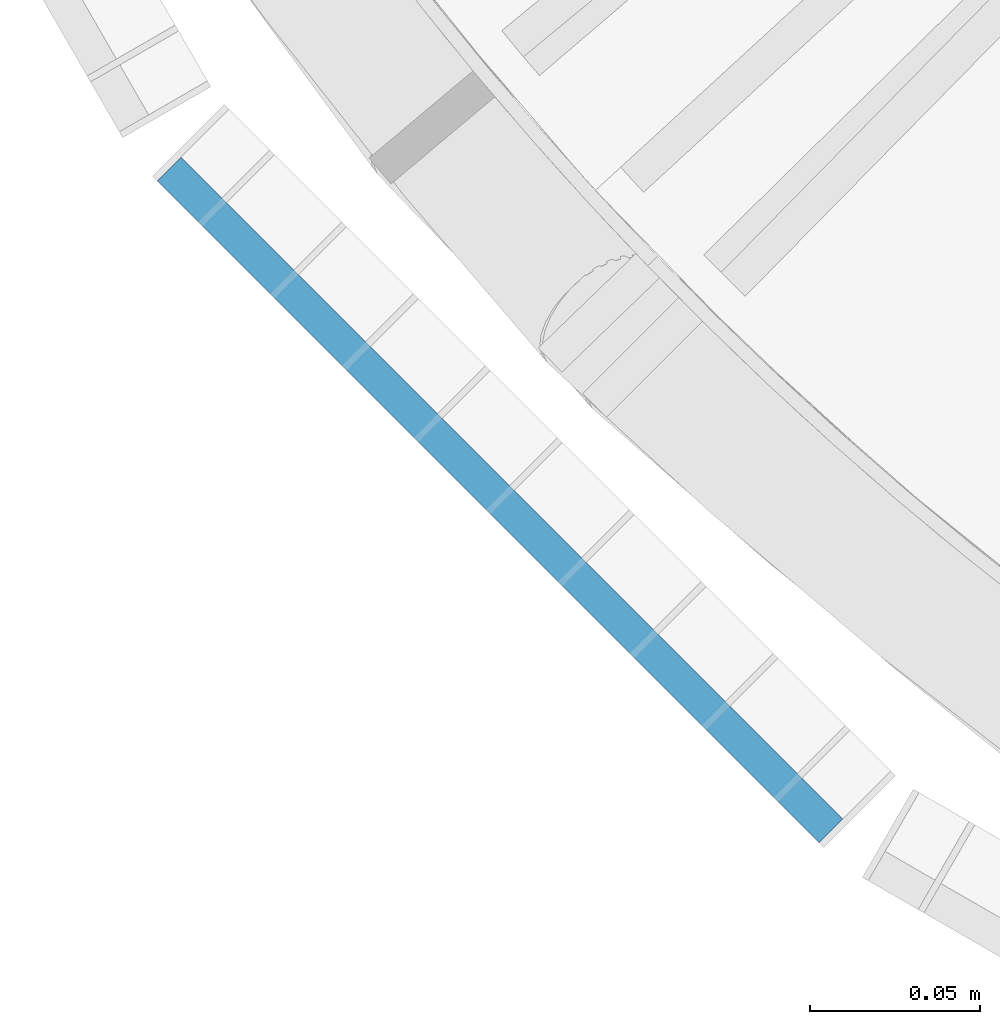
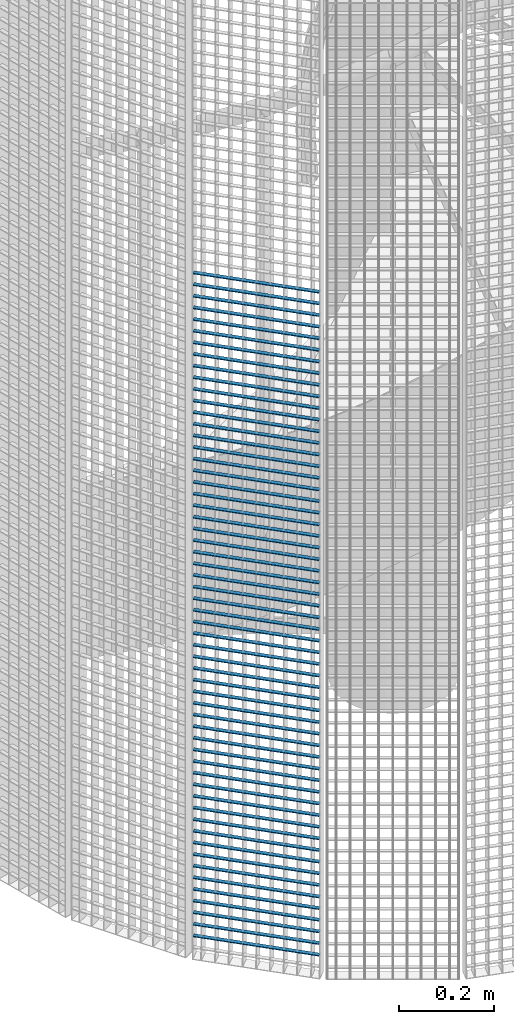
# One storey, part 130 of 1183: 58 beams, 1 element without a shape of its own.
"""IFC2X3 building model written with IfcOpenShell, lengths in millimetres."""

from ifc_helpers import new_model, si_unit, frame, origin_with_axes, origin_2d_with_axis, place, context, subcontext, project, spatial, rectangle, extrude, material, type_object, element, aggregate, save


model = new_model("IFC2X3")

# Units and contexts
model_context = context("Model", 3, precision=1e-05, world=origin_with_axes())
body_context = subcontext(model_context, "Body", "Model", "MODEL_VIEW")
ifc_project = project(units=[si_unit("LENGTHUNIT", "METRE", prefix="MILLI"), si_unit("AREAUNIT", "SQUARE_METRE"), si_unit("VOLUMEUNIT", "CUBIC_METRE"), si_unit("MASSUNIT", "GRAM", prefix="KILO"), si_unit("TIMEUNIT", "SECOND"), si_unit("PLANEANGLEUNIT", "RADIAN"), si_unit("SOLIDANGLEUNIT", "STERADIAN"), si_unit("THERMODYNAMICTEMPERATUREUNIT", "DEGREE_CELSIUS"), si_unit("LUMINOUSINTENSITYUNIT", "LUMEN")], contexts=[model_context])

# Site, building, storey
site_placement = place(None, origin_with_axes())
site = spatial("IfcSite", under=ifc_project, at=site_placement, Name="Undefined", CompositionType="ELEMENT")
building_placement = place(site_placement, origin_with_axes())
building = spatial("IfcBuilding", under=site, at=building_placement, Name="Undefined", CompositionType="ELEMENT")
storey_placement = place(building_placement, origin_with_axes())
storey = spatial("IfcBuildingStorey", under=building, at=storey_placement, Name="Undefined", CompositionType="ELEMENT", Elevation=0.0)

# Assembly, beams
assembly_placement = place(storey_placement, origin_with_axes())
assembly = element("IfcElementAssembly", 1, at=assembly_placement, inside=storey, Name="BORDURE", AssemblyPlace="NOTDEFINED", PredefinedType="NOTDEFINED")
ifc_material = material(Name="STEEL/S235JR")
beam_type = type_object("IfcBeamType", Name="PL2*10", PredefinedType="NOTDEFINED")
beam_1_placement = place(assembly_placement, frame((-884.927168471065, -689.771348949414, 1770.0), z_axis=(-0.70710678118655, -0.707106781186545, 0.0), x_axis=(0.707106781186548, -0.707106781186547, 0.0)))
beam_1 = element("IfcBeam", 2, at=beam_1_placement, type_object=beam_type, material=ifc_material, Name="ENTRETOISE", context=body_context, shape_type="SweptSolid", body=[
    extrude(rectangle(XDim=2.0, YDim=10.0, at=origin_2d_with_axis()), frame((275.999999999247, 9.09494701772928e-13, 1.53210777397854e-14), z_axis=(-1.0, 0.0, 0.0), x_axis=(0.0, -1.0, 0.0)), (0.0, 0.0, 1.0), 276.0),
])
beam_2_placement = place(assembly_placement, frame((-884.927168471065, -689.771348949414, 1740.0), z_axis=(-0.70710678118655, -0.707106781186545, 0.0), x_axis=(0.707106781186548, -0.707106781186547, 0.0)))
beam_2 = element("IfcBeam", 3, at=beam_2_placement, type_object=beam_type, material=ifc_material, Name="ENTRETOISE", context=body_context, shape_type="SweptSolid", body=[
    extrude(rectangle(XDim=2.0, YDim=10.0, at=origin_2d_with_axis()), frame((275.999999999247, 9.09494701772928e-13, 1.53210777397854e-14), z_axis=(-1.0, 0.0, 0.0), x_axis=(0.0, -1.0, 0.0)), (0.0, 0.0, 1.0), 276.0),
])
beam_3_placement = place(assembly_placement, frame((-884.927168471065, -689.771348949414, 1710.0), z_axis=(-0.70710678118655, -0.707106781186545, 0.0), x_axis=(0.707106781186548, -0.707106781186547, 0.0)))
beam_3 = element("IfcBeam", 4, at=beam_3_placement, type_object=beam_type, material=ifc_material, Name="ENTRETOISE", context=body_context, shape_type="SweptSolid", body=[
    extrude(rectangle(XDim=2.0, YDim=10.0, at=origin_2d_with_axis()), frame((275.999999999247, 9.09494701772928e-13, 1.53210777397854e-14), z_axis=(-1.0, 0.0, 0.0), x_axis=(0.0, -1.0, 0.0)), (0.0, 0.0, 1.0), 276.0),
])
beam_4_placement = place(assembly_placement, frame((-884.927168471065, -689.771348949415, 1680.0), z_axis=(-0.70710678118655, -0.707106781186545, 0.0), x_axis=(0.707106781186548, -0.707106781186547, 0.0)))
beam_4 = element("IfcBeam", 5, at=beam_4_placement, type_object=beam_type, material=ifc_material, Name="ENTRETOISE", context=body_context, shape_type="SweptSolid", body=[
    extrude(rectangle(XDim=2.0, YDim=10.0, at=origin_2d_with_axis()), frame((275.999999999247, 9.09494701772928e-13, 1.53210777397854e-14), z_axis=(-1.0, 0.0, 0.0), x_axis=(0.0, -1.0, 0.0)), (0.0, 0.0, 1.0), 276.0),
])
beam_5_placement = place(assembly_placement, frame((-884.927168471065, -689.771348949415, 1650.0), z_axis=(-0.70710678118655, -0.707106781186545, 0.0), x_axis=(0.707106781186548, -0.707106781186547, 0.0)))
beam_5 = element("IfcBeam", 6, at=beam_5_placement, type_object=beam_type, material=ifc_material, Name="ENTRETOISE", context=body_context, shape_type="SweptSolid", body=[
    extrude(rectangle(XDim=2.0, YDim=10.0, at=origin_2d_with_axis()), frame((275.999999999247, 9.09494701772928e-13, 1.53210777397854e-14), z_axis=(-1.0, 0.0, 0.0), x_axis=(0.0, -1.0, 0.0)), (0.0, 0.0, 1.0), 276.0),
])
beam_6_placement = place(assembly_placement, frame((-884.927168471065, -689.771348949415, 1620.0), z_axis=(-0.70710678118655, -0.707106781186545, 0.0), x_axis=(0.707106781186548, -0.707106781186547, 0.0)))
beam_6 = element("IfcBeam", 7, at=beam_6_placement, type_object=beam_type, material=ifc_material, Name="ENTRETOISE", context=body_context, shape_type="SweptSolid", body=[
    extrude(rectangle(XDim=2.0, YDim=10.0, at=origin_2d_with_axis()), frame((275.999999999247, 9.09494701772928e-13, 1.53210777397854e-14), z_axis=(-1.0, 0.0, 0.0), x_axis=(0.0, -1.0, 0.0)), (0.0, 0.0, 1.0), 276.0),
])
beam_7_placement = place(assembly_placement, frame((-884.927168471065, -689.771348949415, 1590.0), z_axis=(-0.70710678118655, -0.707106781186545, 0.0), x_axis=(0.707106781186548, -0.707106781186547, 0.0)))
beam_7 = element("IfcBeam", 8, at=beam_7_placement, type_object=beam_type, material=ifc_material, Name="ENTRETOISE", context=body_context, shape_type="SweptSolid", body=[
    extrude(rectangle(XDim=2.0, YDim=10.0, at=origin_2d_with_axis()), frame((275.999999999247, 9.09494701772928e-13, 1.53210777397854e-14), z_axis=(-1.0, 0.0, 0.0), x_axis=(0.0, -1.0, 0.0)), (0.0, 0.0, 1.0), 276.0),
])
beam_8_placement = place(assembly_placement, frame((-884.927168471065, -689.771348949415, 1560.0), z_axis=(-0.70710678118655, -0.707106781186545, 0.0), x_axis=(0.707106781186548, -0.707106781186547, 0.0)))
beam_8 = element("IfcBeam", 9, at=beam_8_placement, type_object=beam_type, material=ifc_material, Name="ENTRETOISE", context=body_context, shape_type="SweptSolid", body=[
    extrude(rectangle(XDim=2.0, YDim=10.0, at=origin_2d_with_axis()), frame((275.999999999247, 9.09494701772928e-13, 1.53210777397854e-14), z_axis=(-1.0, 0.0, 0.0), x_axis=(0.0, -1.0, 0.0)), (0.0, 0.0, 1.0), 276.0),
])
beam_9_placement = place(assembly_placement, frame((-884.927168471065, -689.771348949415, 1530.0), z_axis=(-0.70710678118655, -0.707106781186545, 0.0), x_axis=(0.707106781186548, -0.707106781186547, 0.0)))
beam_9 = element("IfcBeam", 10, at=beam_9_placement, type_object=beam_type, material=ifc_material, Name="ENTRETOISE", context=body_context, shape_type="SweptSolid", body=[
    extrude(rectangle(XDim=2.0, YDim=10.0, at=origin_2d_with_axis()), frame((275.999999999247, 9.09494701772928e-13, 1.53210777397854e-14), z_axis=(-1.0, 0.0, 0.0), x_axis=(0.0, -1.0, 0.0)), (0.0, 0.0, 1.0), 276.0),
])
beam_10_placement = place(assembly_placement, frame((-884.927168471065, -689.771348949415, 1500.0), z_axis=(-0.70710678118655, -0.707106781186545, 0.0), x_axis=(0.707106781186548, -0.707106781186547, 0.0)))
beam_10 = element("IfcBeam", 11, at=beam_10_placement, type_object=beam_type, material=ifc_material, Name="ENTRETOISE", context=body_context, shape_type="SweptSolid", body=[
    extrude(rectangle(XDim=2.0, YDim=10.0, at=origin_2d_with_axis()), frame((275.999999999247, 9.09494701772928e-13, 1.53210777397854e-14), z_axis=(-1.0, 0.0, 0.0), x_axis=(0.0, -1.0, 0.0)), (0.0, 0.0, 1.0), 276.0),
])
beam_11_placement = place(assembly_placement, frame((-884.927168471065, -689.771348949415, 1470.0), z_axis=(-0.70710678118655, -0.707106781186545, 0.0), x_axis=(0.707106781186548, -0.707106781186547, 0.0)))
beam_11 = element("IfcBeam", 12, at=beam_11_placement, type_object=beam_type, material=ifc_material, Name="ENTRETOISE", context=body_context, shape_type="SweptSolid", body=[
    extrude(rectangle(XDim=2.0, YDim=10.0, at=origin_2d_with_axis()), frame((275.999999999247, 9.09494701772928e-13, 1.53210777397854e-14), z_axis=(-1.0, 0.0, 0.0), x_axis=(0.0, -1.0, 0.0)), (0.0, 0.0, 1.0), 276.0),
])
beam_12_placement = place(assembly_placement, frame((-884.927168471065, -689.771348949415, 1440.0), z_axis=(-0.70710678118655, -0.707106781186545, 0.0), x_axis=(0.707106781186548, -0.707106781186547, 0.0)))
beam_12 = element("IfcBeam", 13, at=beam_12_placement, type_object=beam_type, material=ifc_material, Name="ENTRETOISE", context=body_context, shape_type="SweptSolid", body=[
    extrude(rectangle(XDim=2.0, YDim=10.0, at=origin_2d_with_axis()), frame((275.999999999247, 9.09494701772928e-13, 1.53210777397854e-14), z_axis=(-1.0, 0.0, 0.0), x_axis=(0.0, -1.0, 0.0)), (0.0, 0.0, 1.0), 276.0),
])
beam_13_placement = place(assembly_placement, frame((-884.927168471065, -689.771348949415, 1410.0), z_axis=(-0.70710678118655, -0.707106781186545, 0.0), x_axis=(0.707106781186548, -0.707106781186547, 0.0)))
beam_13 = element("IfcBeam", 14, at=beam_13_placement, type_object=beam_type, material=ifc_material, Name="ENTRETOISE", context=body_context, shape_type="SweptSolid", body=[
    extrude(rectangle(XDim=2.0, YDim=10.0, at=origin_2d_with_axis()), frame((275.999999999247, 9.09494701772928e-13, 1.53210777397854e-14), z_axis=(-1.0, 0.0, 0.0), x_axis=(0.0, -1.0, 0.0)), (0.0, 0.0, 1.0), 276.0),
])
beam_14_placement = place(assembly_placement, frame((-884.927168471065, -689.771348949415, 1380.0), z_axis=(-0.70710678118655, -0.707106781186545, 0.0), x_axis=(0.707106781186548, -0.707106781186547, 0.0)))
beam_14 = element("IfcBeam", 15, at=beam_14_placement, type_object=beam_type, material=ifc_material, Name="ENTRETOISE", context=body_context, shape_type="SweptSolid", body=[
    extrude(rectangle(XDim=2.0, YDim=10.0, at=origin_2d_with_axis()), frame((275.999999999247, 9.09494701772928e-13, 1.53210777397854e-14), z_axis=(-1.0, 0.0, 0.0), x_axis=(0.0, -1.0, 0.0)), (0.0, 0.0, 1.0), 276.0),
])
beam_15_placement = place(assembly_placement, frame((-884.927168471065, -689.771348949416, 1350.0), z_axis=(-0.70710678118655, -0.707106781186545, 0.0), x_axis=(0.707106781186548, -0.707106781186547, 0.0)))
beam_15 = element("IfcBeam", 16, at=beam_15_placement, type_object=beam_type, material=ifc_material, Name="ENTRETOISE", context=body_context, shape_type="SweptSolid", body=[
    extrude(rectangle(XDim=2.0, YDim=10.0, at=origin_2d_with_axis()), frame((275.999999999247, 9.09494701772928e-13, 1.53210777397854e-14), z_axis=(-1.0, 0.0, 0.0), x_axis=(0.0, -1.0, 0.0)), (0.0, 0.0, 1.0), 276.0),
])
beam_16_placement = place(assembly_placement, frame((-884.927168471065, -689.771348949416, 1320.0), z_axis=(-0.70710678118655, -0.707106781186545, 0.0), x_axis=(0.707106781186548, -0.707106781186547, 0.0)))
beam_16 = element("IfcBeam", 17, at=beam_16_placement, type_object=beam_type, material=ifc_material, Name="ENTRETOISE", context=body_context, shape_type="SweptSolid", body=[
    extrude(rectangle(XDim=2.0, YDim=10.0, at=origin_2d_with_axis()), frame((275.999999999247, 9.09494701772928e-13, 1.53210777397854e-14), z_axis=(-1.0, 0.0, 0.0), x_axis=(0.0, -1.0, 0.0)), (0.0, 0.0, 1.0), 276.0),
])
beam_17_placement = place(assembly_placement, frame((-884.927168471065, -689.771348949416, 1290.0), z_axis=(-0.70710678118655, -0.707106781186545, 0.0), x_axis=(0.707106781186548, -0.707106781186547, 0.0)))
beam_17 = element("IfcBeam", 18, at=beam_17_placement, type_object=beam_type, material=ifc_material, Name="ENTRETOISE", context=body_context, shape_type="SweptSolid", body=[
    extrude(rectangle(XDim=2.0, YDim=10.0, at=origin_2d_with_axis()), frame((275.999999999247, 9.09494701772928e-13, 1.53210777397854e-14), z_axis=(-1.0, 0.0, 0.0), x_axis=(0.0, -1.0, 0.0)), (0.0, 0.0, 1.0), 276.0),
])
beam_18_placement = place(assembly_placement, frame((-884.927168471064, -689.771348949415, 1260.0), z_axis=(-0.70710678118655, -0.707106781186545, 0.0), x_axis=(0.707106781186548, -0.707106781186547, 0.0)))
beam_18 = element("IfcBeam", 19, at=beam_18_placement, type_object=beam_type, material=ifc_material, Name="ENTRETOISE", context=body_context, shape_type="SweptSolid", body=[
    extrude(rectangle(XDim=2.0, YDim=10.0, at=origin_2d_with_axis()), frame((275.999999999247, 9.09494701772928e-13, 1.53210777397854e-14), z_axis=(-1.0, 0.0, 0.0), x_axis=(0.0, -1.0, 0.0)), (0.0, 0.0, 1.0), 276.0),
])
beam_19_placement = place(assembly_placement, frame((-884.927168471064, -689.771348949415, 1230.0), z_axis=(-0.70710678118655, -0.707106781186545, 0.0), x_axis=(0.707106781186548, -0.707106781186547, 0.0)))
beam_19 = element("IfcBeam", 20, at=beam_19_placement, type_object=beam_type, material=ifc_material, Name="ENTRETOISE", context=body_context, shape_type="SweptSolid", body=[
    extrude(rectangle(XDim=2.0, YDim=10.0, at=origin_2d_with_axis()), frame((275.999999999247, 9.09494701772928e-13, 1.53210777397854e-14), z_axis=(-1.0, 0.0, 0.0), x_axis=(0.0, -1.0, 0.0)), (0.0, 0.0, 1.0), 276.0),
])
beam_20_placement = place(assembly_placement, frame((-884.927168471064, -689.771348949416, 1200.0), z_axis=(-0.70710678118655, -0.707106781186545, 0.0), x_axis=(0.707106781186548, -0.707106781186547, 0.0)))
beam_20 = element("IfcBeam", 21, at=beam_20_placement, type_object=beam_type, material=ifc_material, Name="ENTRETOISE", context=body_context, shape_type="SweptSolid", body=[
    extrude(rectangle(XDim=2.0, YDim=10.0, at=origin_2d_with_axis()), frame((275.999999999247, 9.09494701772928e-13, 1.53210777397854e-14), z_axis=(-1.0, 0.0, 0.0), x_axis=(0.0, -1.0, 0.0)), (0.0, 0.0, 1.0), 276.0),
])
beam_21_placement = place(assembly_placement, frame((-884.927168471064, -689.771348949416, 1170.0), z_axis=(-0.70710678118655, -0.707106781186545, 0.0), x_axis=(0.707106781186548, -0.707106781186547, 0.0)))
beam_21 = element("IfcBeam", 22, at=beam_21_placement, type_object=beam_type, material=ifc_material, Name="ENTRETOISE", context=body_context, shape_type="SweptSolid", body=[
    extrude(rectangle(XDim=2.0, YDim=10.0, at=origin_2d_with_axis()), frame((275.999999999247, 9.09494701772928e-13, 1.53210777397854e-14), z_axis=(-1.0, 0.0, 0.0), x_axis=(0.0, -1.0, 0.0)), (0.0, 0.0, 1.0), 276.0),
])
beam_22_placement = place(assembly_placement, frame((-884.927168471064, -689.771348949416, 1140.0), z_axis=(-0.70710678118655, -0.707106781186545, 0.0), x_axis=(0.707106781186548, -0.707106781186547, 0.0)))
beam_22 = element("IfcBeam", 23, at=beam_22_placement, type_object=beam_type, material=ifc_material, Name="ENTRETOISE", context=body_context, shape_type="SweptSolid", body=[
    extrude(rectangle(XDim=2.0, YDim=10.0, at=origin_2d_with_axis()), frame((275.999999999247, 9.09494701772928e-13, 1.53210777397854e-14), z_axis=(-1.0, 0.0, 0.0), x_axis=(0.0, -1.0, 0.0)), (0.0, 0.0, 1.0), 276.0),
])
beam_23_placement = place(assembly_placement, frame((-884.927168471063, -689.771348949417, 719.999999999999), z_axis=(-0.70710678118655, -0.707106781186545, 0.0), x_axis=(0.707106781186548, -0.707106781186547, 0.0)))
beam_23 = element("IfcBeam", 24, at=beam_23_placement, type_object=beam_type, material=ifc_material, Name="ENTRETOISE", context=body_context, shape_type="SweptSolid", body=[
    extrude(rectangle(XDim=2.0, YDim=10.0, at=origin_2d_with_axis()), frame((275.999999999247, 9.09494701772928e-13, 1.53210777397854e-14), z_axis=(-1.0, 0.0, 0.0), x_axis=(0.0, -1.0, 0.0)), (0.0, 0.0, 1.0), 276.0),
])
beam_24_placement = place(assembly_placement, frame((-884.927168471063, -689.771348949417, 689.999999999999), z_axis=(-0.70710678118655, -0.707106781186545, 0.0), x_axis=(0.707106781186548, -0.707106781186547, 0.0)))
beam_24 = element("IfcBeam", 25, at=beam_24_placement, type_object=beam_type, material=ifc_material, Name="ENTRETOISE", context=body_context, shape_type="SweptSolid", body=[
    extrude(rectangle(XDim=2.0, YDim=10.0, at=origin_2d_with_axis()), frame((275.999999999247, 9.09494701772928e-13, 1.53210777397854e-14), z_axis=(-1.0, 0.0, 0.0), x_axis=(0.0, -1.0, 0.0)), (0.0, 0.0, 1.0), 276.0),
])
beam_25_placement = place(assembly_placement, frame((-884.927168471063, -689.771348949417, 749.999999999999), z_axis=(-0.70710678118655, -0.707106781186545, 0.0), x_axis=(0.707106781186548, -0.707106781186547, 0.0)))
beam_25 = element("IfcBeam", 26, at=beam_25_placement, type_object=beam_type, material=ifc_material, Name="ENTRETOISE", context=body_context, shape_type="SweptSolid", body=[
    extrude(rectangle(XDim=2.0, YDim=10.0, at=origin_2d_with_axis()), frame((275.999999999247, 9.09494701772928e-13, 1.53210777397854e-14), z_axis=(-1.0, 0.0, 0.0), x_axis=(0.0, -1.0, 0.0)), (0.0, 0.0, 1.0), 276.0),
])
beam_26_placement = place(assembly_placement, frame((-884.927168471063, -689.771348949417, 659.999999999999), z_axis=(-0.70710678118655, -0.707106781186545, 0.0), x_axis=(0.707106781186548, -0.707106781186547, 0.0)))
beam_26 = element("IfcBeam", 27, at=beam_26_placement, type_object=beam_type, material=ifc_material, Name="ENTRETOISE", context=body_context, shape_type="SweptSolid", body=[
    extrude(rectangle(XDim=2.0, YDim=10.0, at=origin_2d_with_axis()), frame((275.999999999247, 9.09494701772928e-13, 1.53210777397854e-14), z_axis=(-1.0, 0.0, 0.0), x_axis=(0.0, -1.0, 0.0)), (0.0, 0.0, 1.0), 276.0),
])
beam_27_placement = place(assembly_placement, frame((-884.927168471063, -689.771348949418, 629.999999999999), z_axis=(-0.70710678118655, -0.707106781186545, 0.0), x_axis=(0.707106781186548, -0.707106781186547, 0.0)))
beam_27 = element("IfcBeam", 28, at=beam_27_placement, type_object=beam_type, material=ifc_material, Name="ENTRETOISE", context=body_context, shape_type="SweptSolid", body=[
    extrude(rectangle(XDim=2.0, YDim=10.0, at=origin_2d_with_axis()), frame((275.999999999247, 9.09494701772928e-13, 1.53210777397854e-14), z_axis=(-1.0, 0.0, 0.0), x_axis=(0.0, -1.0, 0.0)), (0.0, 0.0, 1.0), 276.0),
])
beam_28_placement = place(assembly_placement, frame((-884.927168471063, -689.771348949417, 779.999999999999), z_axis=(-0.70710678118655, -0.707106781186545, 0.0), x_axis=(0.707106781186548, -0.707106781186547, 0.0)))
beam_28 = element("IfcBeam", 29, at=beam_28_placement, type_object=beam_type, material=ifc_material, Name="ENTRETOISE", context=body_context, shape_type="SweptSolid", body=[
    extrude(rectangle(XDim=2.0, YDim=10.0, at=origin_2d_with_axis()), frame((275.999999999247, 9.09494701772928e-13, 1.53210777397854e-14), z_axis=(-1.0, 0.0, 0.0), x_axis=(0.0, -1.0, 0.0)), (0.0, 0.0, 1.0), 276.0),
])
beam_29_placement = place(assembly_placement, frame((-884.927168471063, -689.771348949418, 599.999999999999), z_axis=(-0.70710678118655, -0.707106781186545, 0.0), x_axis=(0.707106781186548, -0.707106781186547, 0.0)))
beam_29 = element("IfcBeam", 30, at=beam_29_placement, type_object=beam_type, material=ifc_material, Name="ENTRETOISE", context=body_context, shape_type="SweptSolid", body=[
    extrude(rectangle(XDim=2.0, YDim=10.0, at=origin_2d_with_axis()), frame((275.999999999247, 9.09494701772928e-13, 1.53210777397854e-14), z_axis=(-1.0, 0.0, 0.0), x_axis=(0.0, -1.0, 0.0)), (0.0, 0.0, 1.0), 276.0),
])
beam_30_placement = place(assembly_placement, frame((-884.927168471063, -689.771348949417, 809.999999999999), z_axis=(-0.70710678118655, -0.707106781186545, 0.0), x_axis=(0.707106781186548, -0.707106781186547, 0.0)))
beam_30 = element("IfcBeam", 31, at=beam_30_placement, type_object=beam_type, material=ifc_material, Name="ENTRETOISE", context=body_context, shape_type="SweptSolid", body=[
    extrude(rectangle(XDim=2.0, YDim=10.0, at=origin_2d_with_axis()), frame((275.999999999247, 9.09494701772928e-13, 1.53210777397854e-14), z_axis=(-1.0, 0.0, 0.0), x_axis=(0.0, -1.0, 0.0)), (0.0, 0.0, 1.0), 276.0),
])
beam_31_placement = place(assembly_placement, frame((-884.927168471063, -689.771348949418, 569.999999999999), z_axis=(-0.70710678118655, -0.707106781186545, 0.0), x_axis=(0.707106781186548, -0.707106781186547, 0.0)))
beam_31 = element("IfcBeam", 32, at=beam_31_placement, type_object=beam_type, material=ifc_material, Name="ENTRETOISE", context=body_context, shape_type="SweptSolid", body=[
    extrude(rectangle(XDim=2.0, YDim=10.0, at=origin_2d_with_axis()), frame((275.999999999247, 9.09494701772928e-13, 1.53210777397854e-14), z_axis=(-1.0, 0.0, 0.0), x_axis=(0.0, -1.0, 0.0)), (0.0, 0.0, 1.0), 276.0),
])
beam_32_placement = place(assembly_placement, frame((-884.927168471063, -689.771348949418, 539.999999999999), z_axis=(-0.70710678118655, -0.707106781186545, 0.0), x_axis=(0.707106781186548, -0.707106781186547, 0.0)))
beam_32 = element("IfcBeam", 33, at=beam_32_placement, type_object=beam_type, material=ifc_material, Name="ENTRETOISE", context=body_context, shape_type="SweptSolid", body=[
    extrude(rectangle(XDim=2.0, YDim=10.0, at=origin_2d_with_axis()), frame((275.999999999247, 9.09494701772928e-13, 1.53210777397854e-14), z_axis=(-1.0, 0.0, 0.0), x_axis=(0.0, -1.0, 0.0)), (0.0, 0.0, 1.0), 276.0),
])
beam_33_placement = place(assembly_placement, frame((-884.927168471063, -689.771348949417, 839.999999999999), z_axis=(-0.70710678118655, -0.707106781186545, 0.0), x_axis=(0.707106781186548, -0.707106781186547, 0.0)))
beam_33 = element("IfcBeam", 34, at=beam_33_placement, type_object=beam_type, material=ifc_material, Name="ENTRETOISE", context=body_context, shape_type="SweptSolid", body=[
    extrude(rectangle(XDim=2.0, YDim=10.0, at=origin_2d_with_axis()), frame((275.999999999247, 9.09494701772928e-13, 1.53210777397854e-14), z_axis=(-1.0, 0.0, 0.0), x_axis=(0.0, -1.0, 0.0)), (0.0, 0.0, 1.0), 276.0),
])
beam_34_placement = place(assembly_placement, frame((-884.927168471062, -689.771348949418, 509.999999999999), z_axis=(-0.70710678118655, -0.707106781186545, 0.0), x_axis=(0.707106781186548, -0.707106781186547, 0.0)))
beam_34 = element("IfcBeam", 35, at=beam_34_placement, type_object=beam_type, material=ifc_material, Name="ENTRETOISE", context=body_context, shape_type="SweptSolid", body=[
    extrude(rectangle(XDim=2.0, YDim=10.0, at=origin_2d_with_axis()), frame((275.999999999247, 9.09494701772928e-13, 1.53210777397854e-14), z_axis=(-1.0, 0.0, 0.0), x_axis=(0.0, -1.0, 0.0)), (0.0, 0.0, 1.0), 276.0),
])
beam_35_placement = place(assembly_placement, frame((-884.927168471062, -689.771348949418, 479.999999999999), z_axis=(-0.70710678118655, -0.707106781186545, 0.0), x_axis=(0.707106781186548, -0.707106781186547, 0.0)))
beam_35 = element("IfcBeam", 36, at=beam_35_placement, type_object=beam_type, material=ifc_material, Name="ENTRETOISE", context=body_context, shape_type="SweptSolid", body=[
    extrude(rectangle(XDim=2.0, YDim=10.0, at=origin_2d_with_axis()), frame((275.999999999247, 9.09494701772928e-13, 1.53210777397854e-14), z_axis=(-1.0, 0.0, 0.0), x_axis=(0.0, -1.0, 0.0)), (0.0, 0.0, 1.0), 276.0),
])
beam_36_placement = place(assembly_placement, frame((-884.927168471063, -689.771348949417, 869.999999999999), z_axis=(-0.70710678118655, -0.707106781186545, 0.0), x_axis=(0.707106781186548, -0.707106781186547, 0.0)))
beam_36 = element("IfcBeam", 37, at=beam_36_placement, type_object=beam_type, material=ifc_material, Name="ENTRETOISE", context=body_context, shape_type="SweptSolid", body=[
    extrude(rectangle(XDim=2.0, YDim=10.0, at=origin_2d_with_axis()), frame((275.999999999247, 9.09494701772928e-13, 1.53210777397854e-14), z_axis=(-1.0, 0.0, 0.0), x_axis=(0.0, -1.0, 0.0)), (0.0, 0.0, 1.0), 276.0),
])
beam_37_placement = place(assembly_placement, frame((-884.927168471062, -689.771348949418, 449.999999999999), z_axis=(-0.70710678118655, -0.707106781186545, 0.0), x_axis=(0.707106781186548, -0.707106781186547, 0.0)))
beam_37 = element("IfcBeam", 38, at=beam_37_placement, type_object=beam_type, material=ifc_material, Name="ENTRETOISE", context=body_context, shape_type="SweptSolid", body=[
    extrude(rectangle(XDim=2.0, YDim=10.0, at=origin_2d_with_axis()), frame((275.999999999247, 9.09494701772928e-13, 1.53210777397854e-14), z_axis=(-1.0, 0.0, 0.0), x_axis=(0.0, -1.0, 0.0)), (0.0, 0.0, 1.0), 276.0),
])
beam_38_placement = place(assembly_placement, frame((-884.927168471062, -689.771348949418, 419.999999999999), z_axis=(-0.70710678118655, -0.707106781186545, 0.0), x_axis=(0.707106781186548, -0.707106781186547, 0.0)))
beam_38 = element("IfcBeam", 39, at=beam_38_placement, type_object=beam_type, material=ifc_material, Name="ENTRETOISE", context=body_context, shape_type="SweptSolid", body=[
    extrude(rectangle(XDim=2.0, YDim=10.0, at=origin_2d_with_axis()), frame((275.999999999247, 9.09494701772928e-13, 1.53210777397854e-14), z_axis=(-1.0, 0.0, 0.0), x_axis=(0.0, -1.0, 0.0)), (0.0, 0.0, 1.0), 276.0),
])
beam_39_placement = place(assembly_placement, frame((-884.927168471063, -689.771348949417, 899.999999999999), z_axis=(-0.70710678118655, -0.707106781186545, 0.0), x_axis=(0.707106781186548, -0.707106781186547, 0.0)))
beam_39 = element("IfcBeam", 40, at=beam_39_placement, type_object=beam_type, material=ifc_material, Name="ENTRETOISE", context=body_context, shape_type="SweptSolid", body=[
    extrude(rectangle(XDim=2.0, YDim=10.0, at=origin_2d_with_axis()), frame((275.999999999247, 9.09494701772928e-13, 1.53210777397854e-14), z_axis=(-1.0, 0.0, 0.0), x_axis=(0.0, -1.0, 0.0)), (0.0, 0.0, 1.0), 276.0),
])
beam_40_placement = place(assembly_placement, frame((-884.927168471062, -689.771348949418, 389.999999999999), z_axis=(-0.70710678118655, -0.707106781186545, 0.0), x_axis=(0.707106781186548, -0.707106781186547, 0.0)))
beam_40 = element("IfcBeam", 41, at=beam_40_placement, type_object=beam_type, material=ifc_material, Name="ENTRETOISE", context=body_context, shape_type="SweptSolid", body=[
    extrude(rectangle(XDim=2.0, YDim=10.0, at=origin_2d_with_axis()), frame((275.999999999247, 9.09494701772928e-13, 1.53210777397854e-14), z_axis=(-1.0, 0.0, 0.0), x_axis=(0.0, -1.0, 0.0)), (0.0, 0.0, 1.0), 276.0),
])
beam_41_placement = place(assembly_placement, frame((-884.927168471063, -689.771348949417, 929.999999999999), z_axis=(-0.70710678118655, -0.707106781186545, 0.0), x_axis=(0.707106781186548, -0.707106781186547, 0.0)))
beam_41 = element("IfcBeam", 42, at=beam_41_placement, type_object=beam_type, material=ifc_material, Name="ENTRETOISE", context=body_context, shape_type="SweptSolid", body=[
    extrude(rectangle(XDim=2.0, YDim=10.0, at=origin_2d_with_axis()), frame((275.999999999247, 9.09494701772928e-13, 1.53210777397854e-14), z_axis=(-1.0, 0.0, 0.0), x_axis=(0.0, -1.0, 0.0)), (0.0, 0.0, 1.0), 276.0),
])
beam_42_placement = place(assembly_placement, frame((-884.927168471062, -689.771348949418, 359.999999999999), z_axis=(-0.70710678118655, -0.707106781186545, 0.0), x_axis=(0.707106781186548, -0.707106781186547, 0.0)))
beam_42 = element("IfcBeam", 43, at=beam_42_placement, type_object=beam_type, material=ifc_material, Name="ENTRETOISE", context=body_context, shape_type="SweptSolid", body=[
    extrude(rectangle(XDim=2.0, YDim=10.0, at=origin_2d_with_axis()), frame((275.999999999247, 9.09494701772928e-13, 1.53210777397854e-14), z_axis=(-1.0, 0.0, 0.0), x_axis=(0.0, -1.0, 0.0)), (0.0, 0.0, 1.0), 276.0),
])
beam_43_placement = place(assembly_placement, frame((-884.927168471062, -689.771348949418, 329.999999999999), z_axis=(-0.70710678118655, -0.707106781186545, 0.0), x_axis=(0.707106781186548, -0.707106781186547, 0.0)))
beam_43 = element("IfcBeam", 44, at=beam_43_placement, type_object=beam_type, material=ifc_material, Name="ENTRETOISE", context=body_context, shape_type="SweptSolid", body=[
    extrude(rectangle(XDim=2.0, YDim=10.0, at=origin_2d_with_axis()), frame((275.999999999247, 9.09494701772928e-13, 1.53210777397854e-14), z_axis=(-1.0, 0.0, 0.0), x_axis=(0.0, -1.0, 0.0)), (0.0, 0.0, 1.0), 276.0),
])
beam_44_placement = place(assembly_placement, frame((-884.927168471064, -689.771348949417, 959.999999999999), z_axis=(-0.70710678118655, -0.707106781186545, 0.0), x_axis=(0.707106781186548, -0.707106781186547, 0.0)))
beam_44 = element("IfcBeam", 45, at=beam_44_placement, type_object=beam_type, material=ifc_material, Name="ENTRETOISE", context=body_context, shape_type="SweptSolid", body=[
    extrude(rectangle(XDim=2.0, YDim=10.0, at=origin_2d_with_axis()), frame((275.999999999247, 9.09494701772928e-13, 1.53210777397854e-14), z_axis=(-1.0, 0.0, 0.0), x_axis=(0.0, -1.0, 0.0)), (0.0, 0.0, 1.0), 276.0),
])
beam_45_placement = place(assembly_placement, frame((-884.927168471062, -689.771348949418, 299.999999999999), z_axis=(-0.70710678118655, -0.707106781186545, 0.0), x_axis=(0.707106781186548, -0.707106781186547, 0.0)))
beam_45 = element("IfcBeam", 46, at=beam_45_placement, type_object=beam_type, material=ifc_material, Name="ENTRETOISE", context=body_context, shape_type="SweptSolid", body=[
    extrude(rectangle(XDim=2.0, YDim=10.0, at=origin_2d_with_axis()), frame((275.999999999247, 9.09494701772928e-13, 1.53210777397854e-14), z_axis=(-1.0, 0.0, 0.0), x_axis=(0.0, -1.0, 0.0)), (0.0, 0.0, 1.0), 276.0),
])
beam_46_placement = place(assembly_placement, frame((-884.927168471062, -689.771348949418, 269.999999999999), z_axis=(-0.70710678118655, -0.707106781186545, 0.0), x_axis=(0.707106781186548, -0.707106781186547, 0.0)))
beam_46 = element("IfcBeam", 47, at=beam_46_placement, type_object=beam_type, material=ifc_material, Name="ENTRETOISE", context=body_context, shape_type="SweptSolid", body=[
    extrude(rectangle(XDim=2.0, YDim=10.0, at=origin_2d_with_axis()), frame((275.999999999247, 9.09494701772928e-13, 1.53210777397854e-14), z_axis=(-1.0, 0.0, 0.0), x_axis=(0.0, -1.0, 0.0)), (0.0, 0.0, 1.0), 276.0),
])
beam_47_placement = place(assembly_placement, frame((-884.927168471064, -689.771348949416, 989.999999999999), z_axis=(-0.70710678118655, -0.707106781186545, 0.0), x_axis=(0.707106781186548, -0.707106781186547, 0.0)))
beam_47 = element("IfcBeam", 48, at=beam_47_placement, type_object=beam_type, material=ifc_material, Name="ENTRETOISE", context=body_context, shape_type="SweptSolid", body=[
    extrude(rectangle(XDim=2.0, YDim=10.0, at=origin_2d_with_axis()), frame((275.999999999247, 9.09494701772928e-13, 1.53210777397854e-14), z_axis=(-1.0, 0.0, 0.0), x_axis=(0.0, -1.0, 0.0)), (0.0, 0.0, 1.0), 276.0),
])
beam_48_placement = place(assembly_placement, frame((-884.927168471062, -689.771348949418, 239.999999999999), z_axis=(-0.70710678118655, -0.707106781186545, 0.0), x_axis=(0.707106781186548, -0.707106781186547, 0.0)))
beam_48 = element("IfcBeam", 49, at=beam_48_placement, type_object=beam_type, material=ifc_material, Name="ENTRETOISE", context=body_context, shape_type="SweptSolid", body=[
    extrude(rectangle(XDim=2.0, YDim=10.0, at=origin_2d_with_axis()), frame((275.999999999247, 9.09494701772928e-13, 1.53210777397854e-14), z_axis=(-1.0, 0.0, 0.0), x_axis=(0.0, -1.0, 0.0)), (0.0, 0.0, 1.0), 276.0),
])
beam_49_placement = place(assembly_placement, frame((-884.927168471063, -689.771348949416, 1020.0), z_axis=(-0.70710678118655, -0.707106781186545, 0.0), x_axis=(0.707106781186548, -0.707106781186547, 0.0)))
beam_49 = element("IfcBeam", 50, at=beam_49_placement, type_object=beam_type, material=ifc_material, Name="ENTRETOISE", context=body_context, shape_type="SweptSolid", body=[
    extrude(rectangle(XDim=2.0, YDim=10.0, at=origin_2d_with_axis()), frame((275.999999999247, 9.09494701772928e-13, 1.53210777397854e-14), z_axis=(-1.0, 0.0, 0.0), x_axis=(0.0, -1.0, 0.0)), (0.0, 0.0, 1.0), 276.0),
])
beam_50_placement = place(assembly_placement, frame((-884.927168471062, -689.771348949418, 209.999999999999), z_axis=(-0.70710678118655, -0.707106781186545, 0.0), x_axis=(0.707106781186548, -0.707106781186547, 0.0)))
beam_50 = element("IfcBeam", 51, at=beam_50_placement, type_object=beam_type, material=ifc_material, Name="ENTRETOISE", context=body_context, shape_type="SweptSolid", body=[
    extrude(rectangle(XDim=2.0, YDim=10.0, at=origin_2d_with_axis()), frame((275.999999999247, 9.09494701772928e-13, 1.53210777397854e-14), z_axis=(-1.0, 0.0, 0.0), x_axis=(0.0, -1.0, 0.0)), (0.0, 0.0, 1.0), 276.0),
])
beam_51_placement = place(assembly_placement, frame((-884.927168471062, -689.771348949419, 179.999999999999), z_axis=(-0.70710678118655, -0.707106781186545, 0.0), x_axis=(0.707106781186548, -0.707106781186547, 0.0)))
beam_51 = element("IfcBeam", 52, at=beam_51_placement, type_object=beam_type, material=ifc_material, Name="ENTRETOISE", context=body_context, shape_type="SweptSolid", body=[
    extrude(rectangle(XDim=2.0, YDim=10.0, at=origin_2d_with_axis()), frame((275.999999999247, 9.09494701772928e-13, 1.53210777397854e-14), z_axis=(-1.0, 0.0, 0.0), x_axis=(0.0, -1.0, 0.0)), (0.0, 0.0, 1.0), 276.0),
])
beam_52_placement = place(assembly_placement, frame((-884.927168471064, -689.771348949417, 1050.0), z_axis=(-0.70710678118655, -0.707106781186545, 0.0), x_axis=(0.707106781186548, -0.707106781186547, 0.0)))
beam_52 = element("IfcBeam", 53, at=beam_52_placement, type_object=beam_type, material=ifc_material, Name="ENTRETOISE", context=body_context, shape_type="SweptSolid", body=[
    extrude(rectangle(XDim=2.0, YDim=10.0, at=origin_2d_with_axis()), frame((275.999999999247, 9.09494701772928e-13, 1.53210777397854e-14), z_axis=(-1.0, 0.0, 0.0), x_axis=(0.0, -1.0, 0.0)), (0.0, 0.0, 1.0), 276.0),
])
beam_53_placement = place(assembly_placement, frame((-884.927168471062, -689.771348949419, 149.999999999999), z_axis=(-0.70710678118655, -0.707106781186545, 0.0), x_axis=(0.707106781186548, -0.707106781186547, 0.0)))
beam_53 = element("IfcBeam", 54, at=beam_53_placement, type_object=beam_type, material=ifc_material, Name="ENTRETOISE", context=body_context, shape_type="SweptSolid", body=[
    extrude(rectangle(XDim=2.0, YDim=10.0, at=origin_2d_with_axis()), frame((275.999999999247, 9.09494701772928e-13, 1.53210777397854e-14), z_axis=(-1.0, 0.0, 0.0), x_axis=(0.0, -1.0, 0.0)), (0.0, 0.0, 1.0), 276.0),
])
beam_54_placement = place(assembly_placement, frame((-884.927168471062, -689.771348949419, 119.999999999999), z_axis=(-0.70710678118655, -0.707106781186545, 0.0), x_axis=(0.707106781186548, -0.707106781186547, 0.0)))
beam_54 = element("IfcBeam", 55, at=beam_54_placement, type_object=beam_type, material=ifc_material, Name="ENTRETOISE", context=body_context, shape_type="SweptSolid", body=[
    extrude(rectangle(XDim=2.0, YDim=10.0, at=origin_2d_with_axis()), frame((275.999999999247, 9.09494701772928e-13, 1.53210777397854e-14), z_axis=(-1.0, 0.0, 0.0), x_axis=(0.0, -1.0, 0.0)), (0.0, 0.0, 1.0), 276.0),
])
beam_55_placement = place(assembly_placement, frame((-884.927168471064, -689.771348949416, 1080.0), z_axis=(-0.70710678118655, -0.707106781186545, 0.0), x_axis=(0.707106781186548, -0.707106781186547, 0.0)))
beam_55 = element("IfcBeam", 56, at=beam_55_placement, type_object=beam_type, material=ifc_material, Name="ENTRETOISE", context=body_context, shape_type="SweptSolid", body=[
    extrude(rectangle(XDim=2.0, YDim=10.0, at=origin_2d_with_axis()), frame((275.999999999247, 9.09494701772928e-13, 1.53210777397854e-14), z_axis=(-1.0, 0.0, 0.0), x_axis=(0.0, -1.0, 0.0)), (0.0, 0.0, 1.0), 276.0),
])
beam_56_placement = place(assembly_placement, frame((-884.927168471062, -689.771348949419, 89.9999999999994), z_axis=(-0.70710678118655, -0.707106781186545, 0.0), x_axis=(0.707106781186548, -0.707106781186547, 0.0)))
beam_56 = element("IfcBeam", 57, at=beam_56_placement, type_object=beam_type, material=ifc_material, Name="ENTRETOISE", context=body_context, shape_type="SweptSolid", body=[
    extrude(rectangle(XDim=2.0, YDim=10.0, at=origin_2d_with_axis()), frame((275.999999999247, 9.09494701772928e-13, 1.53210777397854e-14), z_axis=(-1.0, 0.0, 0.0), x_axis=(0.0, -1.0, 0.0)), (0.0, 0.0, 1.0), 276.0),
])
beam_57_placement = place(assembly_placement, frame((-884.927168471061, -689.771348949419, 59.9999999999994), z_axis=(-0.70710678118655, -0.707106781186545, 0.0), x_axis=(0.707106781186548, -0.707106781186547, 0.0)))
beam_57 = element("IfcBeam", 58, at=beam_57_placement, type_object=beam_type, material=ifc_material, Name="ENTRETOISE", context=body_context, shape_type="SweptSolid", body=[
    extrude(rectangle(XDim=2.0, YDim=10.0, at=origin_2d_with_axis()), frame((275.999999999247, 9.09494701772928e-13, 1.53210777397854e-14), z_axis=(-1.0, 0.0, 0.0), x_axis=(0.0, -1.0, 0.0)), (0.0, 0.0, 1.0), 276.0),
])
beam_58_placement = place(assembly_placement, frame((-884.927168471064, -689.771348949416, 1110.0), z_axis=(-0.70710678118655, -0.707106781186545, 0.0), x_axis=(0.707106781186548, -0.707106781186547, 0.0)))
beam_58 = element("IfcBeam", 59, at=beam_58_placement, type_object=beam_type, material=ifc_material, Name="ENTRETOISE", context=body_context, shape_type="SweptSolid", body=[
    extrude(rectangle(XDim=2.0, YDim=10.0, at=origin_2d_with_axis()), frame((275.999999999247, 9.09494701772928e-13, 1.53210777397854e-14), z_axis=(-1.0, 0.0, 0.0), x_axis=(0.0, -1.0, 0.0)), (0.0, 0.0, 1.0), 276.0),
])
aggregate(assembly, [beam_1, beam_2, beam_3, beam_4, beam_5, beam_6, beam_7, beam_8, beam_9, beam_10, beam_11, beam_12, beam_13, beam_14, beam_15, beam_16, beam_17, beam_18, beam_19, beam_20, beam_21, beam_22, beam_23, beam_24, beam_25, beam_26, beam_27, beam_28, beam_29, beam_30, beam_31, beam_32, beam_33, beam_34, beam_35, beam_36, beam_37, beam_38, beam_39, beam_40, beam_41, beam_42, beam_43, beam_44, beam_45, beam_46, beam_47, beam_48, beam_49, beam_50, beam_51, beam_52, beam_53, beam_54, beam_55, beam_56, beam_57, beam_58])

save(model, "model.ifc")
